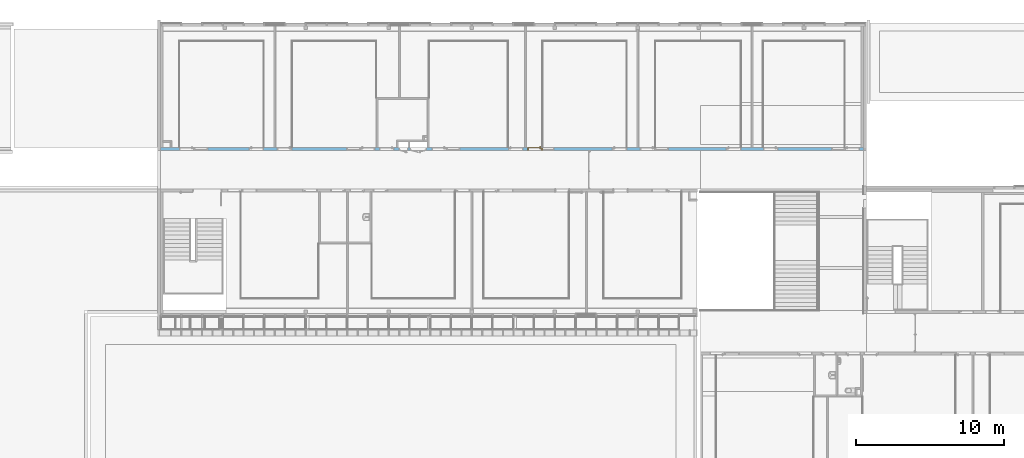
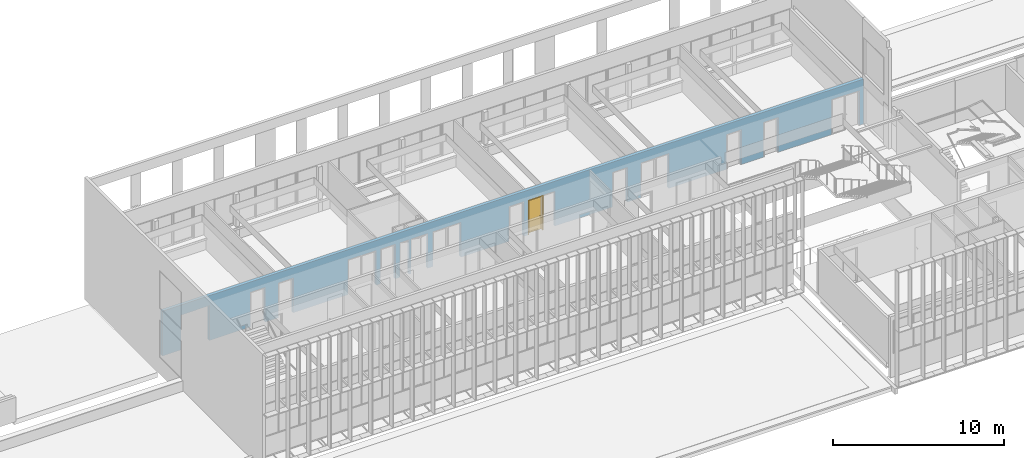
# One storey, part 55 of 106: 1 door, 21 openings, plus 1 element that does not belong to this part.
"""IFC2X3 building model written with IfcOpenShell, lengths in centimetres."""

from ifc_helpers import new_model, entity, si_unit, converted_unit, derived_unit, direction, frame, frame_2d, origin, place, context, subcontext, project, spatial, polyline, rectangle, extrude, clip, bounded_halfspace, faceted_brep, source, transform, mapped, material, material_list, layer, layer_set, layer_usage, type_object, type_shapes, element, fill, save


model = new_model("IFC2X3")

# Units and contexts
model_context = context("Model", 3, precision=0.001, world=origin(), true_north=direction((6.12303176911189e-17, 1.0)))
body_context = subcontext(model_context, "Body", "Model", "MODEL_VIEW")
ifc_project = project(units=[si_unit("LENGTHUNIT", "METRE", prefix="CENTI"), si_unit("AREAUNIT", "SQUARE_METRE"), si_unit("VOLUMEUNIT", "CUBIC_METRE"), converted_unit("PLANEANGLEUNIT", "DEGREE", entity("IfcRatioMeasure", 0.0174532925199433), si_unit("PLANEANGLEUNIT", "RADIAN"), dimensions=[0, 0, 0, 0, 0, 0, 0]), si_unit("MASSUNIT", "GRAM", prefix="KILO"), derived_unit("MASSDENSITYUNIT", [(si_unit("MASSUNIT", "GRAM", prefix="KILO"), 1), (si_unit("LENGTHUNIT", "METRE"), -3)]), si_unit("TIMEUNIT", "SECOND"), si_unit("FREQUENCYUNIT", "HERTZ"), si_unit("THERMODYNAMICTEMPERATUREUNIT", "DEGREE_CELSIUS"), derived_unit("THERMALTRANSMITTANCEUNIT", [(si_unit("MASSUNIT", "GRAM", prefix="KILO"), 1), (si_unit("THERMODYNAMICTEMPERATUREUNIT", "KELVIN"), -1), (si_unit("TIMEUNIT", "SECOND"), -3)]), derived_unit("VOLUMETRICFLOWRATEUNIT", [(si_unit("LENGTHUNIT", "METRE"), 3), (si_unit("TIMEUNIT", "SECOND"), -1)]), si_unit("ELECTRICCURRENTUNIT", "AMPERE"), si_unit("ELECTRICVOLTAGEUNIT", "VOLT"), si_unit("POWERUNIT", "WATT"), si_unit("FORCEUNIT", "NEWTON", prefix="KILO"), si_unit("ILLUMINANCEUNIT", "LUX"), si_unit("LUMINOUSFLUXUNIT", "LUMEN"), si_unit("LUMINOUSINTENSITYUNIT", "CANDELA"), derived_unit("USERDEFINED", [(si_unit("MASSUNIT", "GRAM", prefix="KILO"), -1), (si_unit("LENGTHUNIT", "METRE"), -2), (si_unit("TIMEUNIT", "SECOND"), 3), (si_unit("LUMINOUSFLUXUNIT", "LUMEN"), 1)]), derived_unit("LINEARVELOCITYUNIT", [(si_unit("LENGTHUNIT", "METRE"), 1), (si_unit("TIMEUNIT", "SECOND"), -1)]), si_unit("PRESSUREUNIT", "PASCAL"), derived_unit("USERDEFINED", [(si_unit("LENGTHUNIT", "METRE"), -2), (si_unit("MASSUNIT", "GRAM", prefix="KILO"), 1), (si_unit("TIMEUNIT", "SECOND"), -2)])], contexts=[model_context])

# Site, building, storey
site_placement = place(None, frame((-2781.94577612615, 7442.24238424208, 0.0)))
site = spatial("IfcSite", under=ifc_project, at=site_placement, Name="Default", CompositionType="ELEMENT")
building_placement = place(site_placement, origin())
building = spatial("IfcBuilding", under=site, at=building_placement, CompositionType="ELEMENT")
storey_placement = place(building_placement, frame((0.0, 0.0, 422.0)))
storey = spatial("IfcBuildingStorey", under=building, at=storey_placement, Name="Toiture - Cuisine", CompositionType="ELEMENT", Elevation=421.999999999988)

# Wall, openings, door
ifc_material_1 = material(Name="01 - Maçonnerie")
ifc_layer = layer(ifc_material_1, 20.0)
ifc_layer_set = layer_set([ifc_layer], Name="Mur de base:04 - Structure - béton - 20cm")
ifc_layer_usage = layer_usage(ifc_layer_set, "AXIS2", "NEGATIVE", 10.0)
wall_type = type_object("IfcWallType", Name="Mur de base:04 - Structure - béton - 20cm", PredefinedType="STANDARD", material=ifc_layer_set)
wall_placement = place(building_placement, frame((-8409.49987766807, -820.048500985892, 422.0)))
wall = element("IfcWallStandardCase", 1, at=wall_placement, inside=storey, type_object=wall_type, material=ifc_layer_usage, Name="Mur de base:04 - Structure - béton - 20cm", ObjectType="Mur de base:04 - Structure - béton - 20cm", context=body_context, shape_type="Clipping", body=[
    clip(extrude(rectangle(XDim=4741.49999798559, YDim=20.0, at=frame_2d((2370.74999899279, 2.04281036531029e-14), x_axis=(-1.0, 0.0))), origin(), (0.0, 0.0, 1.0), 321.0), bounded_halfspace(frame((4741.49999798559, -10.0, 321.0), z_axis=(0.0, 0.0, -1.0), x_axis=(0.0, 1.0, 0.0)), True, frame((4741.49999798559, -10.0, 321.0)), polyline([(0.0, 0.0), (0.0, 20.0), (-15.3000000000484, 20.0), (-125.300000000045, 20.0), (-127.300000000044, 20.0), (-675.800000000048, 20.0), (-677.800000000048, 20.0), (-745.800000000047, 20.0), (-755.800000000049, 20.0), (-825.800000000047, 20.0), (-827.800000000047, 20.0), (-1403.80000000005, 20.0), (-1405.80000000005, 20.0), (-1516.49999791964, 20.0), (-1526.49999791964, 20.0), (-1595.78709704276, 20.0), (-1597.78709704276, 20.0), (-2163.80000000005, 20.0), (-2165.80000000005, 20.0), (-2275.80000000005, 20.0), (-2285.80000000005, 20.0), (-2395.80000000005, 20.0), (-2397.80000000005, 20.0), (-2931.80000000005, 20.0), (-2941.80000000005, 20.0), (-3060.80000000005, 20.0), (-3070.80000000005, 20.0), (-3137.80000000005, 20.0), (-3147.80000000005, 20.0), (-3275.80000000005, 20.0), (-3285.80000000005, 20.0), (-3416.49999791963, 20.0), (-3535.80000000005, 20.0), (-3545.80000000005, 20.0), (-3611.80000000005, 20.0), (-3853.80000000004, 20.0), (-3855.80000000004, 20.0), (-3965.80000000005, 20.0), (-3975.80000000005, 20.0), (-4044.30000000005, 20.0), (-4046.30000000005, 20.0), (-4614.19999798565, 20.0), (-4616.19999798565, 20.0), (-4666.19999798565, 20.0), (-4676.19999798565, 20.0), (-4726.19999798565, 20.0), (-4741.49999798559, 20.0), (-4741.49999798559, 0.0), (-1854.0, 0.0), (-1844.0, 0.0), (-1840.0, 0.0), (0.0, 0.0)]))),
])
opening_1_placement = place(wall_placement, frame((1669.50000006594, 10.0, 0.0)))
element("IfcOpeningElement", 2, at=opening_1_placement, cuts=wall, Name="Int. Simple:PP Placard (0.55m x 2.50m):1", ObjectType="Opening", context=body_context, shape_type="SweptSolid", body=[
    extrude(rectangle(XDim=248.500000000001, YDim=61.9999999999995, at=frame_2d((124.250000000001, 30.9999999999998), x_axis=(1.0, 0.0))), frame((0.0, 0.0, 0.0), z_axis=(0.0, -1.0, 0.0), x_axis=(0.0, 0.0, 1.0)), (0.0, 0.0, 1.0), 20.0),
])
opening_2_placement = place(wall_placement, frame((1794.50000006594, 10.0, 0.0)))
element("IfcOpeningElement", 3, at=opening_2_placement, cuts=wall, Name="Int. Double:PP Placard (1.05m x 2.50m):1", ObjectType="Opening", context=body_context, shape_type="SweptSolid", body=[
    extrude(rectangle(XDim=248.500000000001, YDim=112.0, at=frame_2d((124.250000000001, 56.0000000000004), x_axis=(1.0, 0.0))), frame((0.0, 0.0, 0.0), z_axis=(0.0, -1.0, 0.0), x_axis=(0.0, 0.0, 1.0)), (0.0, 0.0, 1.0), 20.0),
])
opening_3_placement = place(wall_placement, frame((126.799999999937, -10.0, 0.0)))
element("IfcOpeningElement", 4, at=opening_3_placement, cuts=wall, Name="Int. Simple:PV (0.93m x 2.50m):1", ObjectType="Opening", context=body_context, shape_type="SweptSolid", body=[
    extrude(rectangle(XDim=248.500000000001, YDim=99.9999999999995, at=frame_2d((124.250000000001, 50.0), x_axis=(1.0, 0.0))), frame((0.0, 0.0, 0.0), z_axis=(0.0, 1.0, 0.0), x_axis=(0.0, 0.0, 1.0)), (0.0, 0.0, 1.0), 20.0),
])
opening_4_placement = place(wall_placement, frame((595.699997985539, -10.0, 0.0)))
element("IfcOpeningElement", 5, at=opening_4_placement, cuts=wall, Name="Int. Simple:PV (0.93m x 2.50m):1", ObjectType="Opening", context=body_context, shape_type="SweptSolid", body=[
    extrude(rectangle(XDim=248.500000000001, YDim=99.9999999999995, at=frame_2d((124.250000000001, 49.9999999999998), x_axis=(1.0, 0.0))), frame((0.0, 0.0, 0.0), z_axis=(0.0, 1.0, 0.0), x_axis=(0.0, 0.0, 1.0)), (0.0, 0.0, 1.0), 20.0),
])
opening_5_placement = place(wall_placement, frame((785.699997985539, -10.0, 0.0)))
element("IfcOpeningElement", 6, at=opening_5_placement, cuts=wall, Name="Int. Simple:PV (0.93m x 2.50m):1", ObjectType="Opening", context=body_context, shape_type="SweptSolid", body=[
    extrude(rectangle(XDim=248.500000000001, YDim=99.9999999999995, at=frame_2d((124.250000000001, 50.0), x_axis=(1.0, 0.0))), frame((0.0, 0.0, 0.0), z_axis=(0.0, 1.0, 0.0), x_axis=(0.0, 0.0, 1.0)), (0.0, 0.0, 1.0), 20.0),
])
opening_6_placement = place(wall_placement, frame((1345.69999798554, -10.0, 0.0)))
element("IfcOpeningElement", 7, at=opening_6_placement, cuts=wall, Name="Int. Simple:PV (0.93m x 2.50m):1", ObjectType="Opening", context=body_context, shape_type="SweptSolid", body=[
    extrude(rectangle(XDim=248.500000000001, YDim=99.9999999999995, at=frame_2d((124.250000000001, 49.9999999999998), x_axis=(1.0, 0.0))), frame((0.0, 0.0, 0.0), z_axis=(0.0, 1.0, 0.0), x_axis=(0.0, 0.0, 1.0)), (0.0, 0.0, 1.0), 20.0),
])
opening_7_placement = place(wall_placement, frame((1475.69999798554, -10.0, 0.0)))
element("IfcOpeningElement", 8, at=opening_7_placement, cuts=wall, Name="Int. Simple:PP simple (0.93m x 2.50m):1", ObjectType="Opening", context=body_context, shape_type="SweptSolid", body=[
    extrude(rectangle(XDim=248.500000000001, YDim=99.9999999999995, at=frame_2d((124.250000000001, 50.0), x_axis=(1.0, 0.0))), frame((0.0, 0.0, 0.0), z_axis=(0.0, 1.0, 0.0), x_axis=(0.0, 0.0, 1.0)), (0.0, 0.0, 1.0), 20.0),
])
opening_8_placement = place(wall_placement, frame((1829.69999798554, -10.0, 0.0)))
element("IfcOpeningElement", 9, at=opening_8_placement, cuts=wall, Name="Int. Simple:PV (0.93m x 2.50m):1", ObjectType="Opening", context=body_context, shape_type="SweptSolid", body=[
    extrude(rectangle(XDim=248.500000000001, YDim=99.9999999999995, at=frame_2d((124.250000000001, 50.0), x_axis=(1.0, 0.0))), frame((0.0, 0.0, 0.0), z_axis=(0.0, 1.0, 0.0), x_axis=(0.0, 0.0, 1.0)), (0.0, 0.0, 1.0), 20.0),
])
opening_9_placement = place(wall_placement, frame((2345.69999798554, -10.0, 0.0)))
element("IfcOpeningElement", 10, at=opening_9_placement, cuts=wall, Name="Int. Simple:PV (0.93m x 2.50m):1", ObjectType="Opening", context=body_context, shape_type="SweptSolid", body=[
    extrude(rectangle(XDim=248.500000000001, YDim=99.9999999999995, at=frame_2d((124.250000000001, 49.9999999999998), x_axis=(1.0, 0.0))), frame((0.0, 0.0, 0.0), z_axis=(0.0, 1.0, 0.0), x_axis=(0.0, 0.0, 1.0)), (0.0, 0.0, 1.0), 20.0),
])
opening_10_placement = place(wall_placement, frame((2475.69999798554, -10.0, 0.0)))
opening_10 = element("IfcOpeningElement", 11, at=opening_10_placement, cuts=wall, Name="Int. Simple:PV (0.93m x 2.50m):1", ObjectType="Opening", context=body_context, shape_type="SweptSolid", body=[
    extrude(rectangle(XDim=248.500000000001, YDim=99.9999999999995, at=frame_2d((124.250000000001, 50.0), x_axis=(1.0, 0.0))), frame((0.0, 0.0, 0.0), z_axis=(0.0, 1.0, 0.0), x_axis=(0.0, 0.0, 1.0)), (0.0, 0.0, 1.0), 20.0),
])
opening_11_placement = place(wall_placement, frame((3045.69999798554, -10.0, 0.0)))
element("IfcOpeningElement", 12, at=opening_11_placement, cuts=wall, Name="Int. Simple:PV (0.93m x 2.50m):1", ObjectType="Opening", context=body_context, shape_type="SweptSolid", body=[
    extrude(rectangle(XDim=248.500000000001, YDim=99.9999999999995, at=frame_2d((124.250000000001, 49.9999999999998), x_axis=(1.0, 0.0))), frame((0.0, 0.0, 0.0), z_axis=(0.0, 1.0, 0.0), x_axis=(0.0, 0.0, 1.0)), (0.0, 0.0, 1.0), 20.0),
])
opening_12_placement = place(wall_placement, frame((3235.69999798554, -10.0, 0.0)))
element("IfcOpeningElement", 13, at=opening_12_placement, cuts=wall, Name="Int. Simple:PV (0.93m x 2.50m):1", ObjectType="Opening", context=body_context, shape_type="SweptSolid", body=[
    extrude(rectangle(XDim=248.500000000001, YDim=99.9999999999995, at=frame_2d((124.250000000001, 50.0), x_axis=(1.0, 0.0))), frame((0.0, 0.0, 0.0), z_axis=(0.0, 1.0, 0.0), x_axis=(0.0, 0.0, 1.0)), (0.0, 0.0, 1.0), 20.0),
])
opening_13_placement = place(wall_placement, frame((3815.69999798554, -10.0, 0.0)))
element("IfcOpeningElement", 14, at=opening_13_placement, cuts=wall, Name="Int. Simple:PV (0.93m x 2.50m):1", ObjectType="Opening", context=body_context, shape_type="SweptSolid", body=[
    extrude(rectangle(XDim=248.500000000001, YDim=99.9999999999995, at=frame_2d((124.250000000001, 49.9999999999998), x_axis=(1.0, 0.0))), frame((0.0, 0.0, 0.0), z_axis=(0.0, 1.0, 0.0), x_axis=(0.0, 0.0, 1.0)), (0.0, 0.0, 1.0), 20.0),
])
opening_14_placement = place(wall_placement, frame((4065.69999798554, -10.0, 0.0)))
element("IfcOpeningElement", 15, at=opening_14_placement, cuts=wall, Name="Int. Simple:PV (0.93m x 2.50m):1", ObjectType="Opening", context=body_context, shape_type="SweptSolid", body=[
    extrude(rectangle(XDim=248.500000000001, YDim=99.9999999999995, at=frame_2d((124.250000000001, 50.0), x_axis=(1.0, 0.0))), frame((0.0, 0.0, 0.0), z_axis=(0.0, 1.0, 0.0), x_axis=(0.0, 0.0, 1.0)), (0.0, 0.0, 1.0), 20.0),
])
opening_15_placement = place(wall_placement, frame((4616.19999798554, -10.0, 0.0)))
element("IfcOpeningElement", 16, at=opening_15_placement, cuts=wall, Name="Int. Simple:PV (0.93m x 2.50m):1", ObjectType="Opening", context=body_context, shape_type="SweptSolid", body=[
    extrude(rectangle(XDim=248.500000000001, YDim=99.9999999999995, at=frame_2d((124.250000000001, 49.9999999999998), x_axis=(1.0, 0.0))), frame((0.0, 0.0, 0.0), z_axis=(0.0, 1.0, 0.0), x_axis=(0.0, 0.0, 1.0)), (0.0, 0.0, 1.0), 20.0),
])
opening_16_placement = place(wall_placement, frame((1255.69999798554, -10.0, 0.0)))
element("IfcOpeningElement", 17, at=opening_16_placement, cuts=wall, Name="châssis intérieur vitré:châssis intérieur vitré (h=270) R+1:1", ObjectType="Opening", context=body_context, shape_type="SweptSolid", body=[
    extrude(rectangle(XDim=250.0, YDim=89.9999999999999, at=frame_2d((125.0, 45.0), x_axis=(1.0, 0.0))), frame((0.0, 0.0, 0.0), z_axis=(0.0, 1.0, 0.0), x_axis=(0.0, 0.0, 1.0)), (0.0, 0.0, 1.0), 20.0),
])
opening_17_placement = place(wall_placement, frame((1929.69999798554, -10.0, 0.0)))
element("IfcOpeningElement", 18, at=opening_17_placement, cuts=wall, Name="châssis intérieur vitré:châssis intérieur vitré (h=270) R+1:1", ObjectType="Opening", context=body_context, shape_type="SweptSolid", body=[
    extrude(rectangle(XDim=250.0, YDim=89.9999999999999, at=frame_2d((125.0, 45.0), x_axis=(1.0, 0.0))), frame((0.0, 0.0, 0.0), z_axis=(0.0, 1.0, 0.0), x_axis=(0.0, 0.0, 1.0)), (0.0, 0.0, 1.0), 20.0),
])
opening_18_placement = place(wall_placement, frame((4526.19999798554, -10.0, 0.0)))
element("IfcOpeningElement", 19, at=opening_18_placement, cuts=wall, Name="châssis intérieur vitré:châssis intérieur vitré (h=270) R+1:1", ObjectType="Opening", context=body_context, shape_type="SweptSolid", body=[
    extrude(rectangle(XDim=250.0, YDim=89.9999999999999, at=frame_2d((125.0, 45.0000000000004), x_axis=(1.0, 0.0))), frame((0.0, 0.0, 0.0), z_axis=(0.0, 1.0, 0.0), x_axis=(0.0, 0.0, 1.0)), (0.0, 0.0, 1.0), 20.0),
])
opening_19_placement = place(wall_placement, frame((3335.69999798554, -10.0, 0.0)))
element("IfcOpeningElement", 20, at=opening_19_placement, cuts=wall, Name="châssis intérieur vitré:châssis intérieur vitré (h=270) R+1:1", ObjectType="Opening", context=body_context, shape_type="SweptSolid", body=[
    extrude(rectangle(XDim=250.0, YDim=89.9999999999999, at=frame_2d((125.0, 45.0000000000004), x_axis=(1.0, 0.0))), frame((0.0, 0.0, 0.0), z_axis=(0.0, 1.0, 0.0), x_axis=(0.0, 0.0, 1.0)), (0.0, 0.0, 1.0), 20.0),
])
opening_20_placement = place(wall_placement, frame((2565.69999798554, -10.0, 0.0)))
element("IfcOpeningElement", 21, at=opening_20_placement, cuts=wall, Name="châssis intérieur vitré:châssis intérieur vitré (h=270) R+1:1", ObjectType="Opening", context=body_context, shape_type="SweptSolid", body=[
    extrude(rectangle(XDim=250.0, YDim=89.9999999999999, at=frame_2d((125.0, 45.0000000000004), x_axis=(1.0, 0.0))), frame((0.0, 0.0, 0.0), z_axis=(0.0, 1.0, 0.0), x_axis=(0.0, 0.0, 1.0)), (0.0, 0.0, 1.0), 20.0),
])
opening_21_placement = place(wall_placement, frame((226.799999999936, -10.0, 0.0)))
element("IfcOpeningElement", 22, at=opening_21_placement, cuts=wall, Name="châssis intérieur vitré:châssis intérieur vitré (h=270) R+1:1", ObjectType="Opening", context=body_context, shape_type="SweptSolid", body=[
    extrude(rectangle(XDim=250.0, YDim=91.4999999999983, at=frame_2d((125.0, 45.7499999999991), x_axis=(1.0, 0.0))), frame((0.0, 0.0, 0.0), z_axis=(0.0, 1.0, 0.0), x_axis=(0.0, 0.0, 1.0)), (0.0, 0.0, 1.0), 20.0),
])
ifc_material_2 = material(Name="Finition Peinture - Blanc satiné")
ifc_material_3 = material(Name="Bois - Panneau de porte")
ifc_material_4 = material(Name="Bois - Cadre de porte")
ifc_material_list_1 = material_list([ifc_material_2, ifc_material_3, ifc_material_4])
ifc_material_list_2 = material_list([ifc_material_2, ifc_material_3, ifc_material_4])
door_style = type_object("IfcDoorStyle", Name="PV (0.93m x 2.50m)", ConstructionType="NOTDEFINED", OperationType="SINGLE_SWING_LEFT", ParameterTakesPrecedence=False, Sizeable=False, material=ifc_material_list_2)
shared_shape = source(origin(), body_context, "Body", "Brep", [
    faceted_brep([(10.5352761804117, -0.500000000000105, 86.6003983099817), (11.5000000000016, -0.500000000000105, 87.0), (11.5000000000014, -0.500000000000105, 108.0), (10.5352761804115, -0.500000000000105, 108.399601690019), (9.50000000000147, -0.500000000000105, 108.535898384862), (8.46472381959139, -0.500000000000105, 108.399601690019), (7.50000000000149, -0.500000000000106, 108.0), (7.50000000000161, -0.500000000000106, 87.0), (8.46472381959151, -0.500000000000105, 86.6003983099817), (9.50000000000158, -0.500000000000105, 86.464101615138), (10.5352761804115, 0.0, 108.399601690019), (11.5000000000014, 0.0, 108.0), (11.5000000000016, 0.0, 87.0), (10.5352761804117, 0.0, 86.6003983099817), (9.50000000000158, 0.0, 86.464101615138), (8.46472381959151, 0.0, 86.6003983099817), (7.50000000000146, 0.0, 87.0), (7.50000000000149, 0.0, 108.0), (8.46472381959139, 0.0, 108.399601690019), (9.50000000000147, 0.0, 108.535898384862)], [[[0, 1, 2, 3, 4, 5, 6, 7, 8, 9]], [[10, 11, 12, 13, 14, 15, 16, 17, 18, 19]], [[16, 15, 8, 7]], [[8, 15, 14, 9]], [[14, 13, 0, 9]], [[13, 12, 1, 0]], [[2, 1, 12, 11]], [[11, 10, 3, 2]], [[3, 10, 19, 4]], [[19, 18, 5, 4]], [[18, 17, 6, 5]], [[7, 6, 17, 16]]]),
    faceted_brep([(10.5352761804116, 4.0, 86.6003983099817), (11.5000000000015, 4.0, 87.0), (11.5000000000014, 4.0, 108.0), (10.5352761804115, 4.0, 108.399601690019), (9.50000000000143, 4.0, 108.535898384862), (8.46472381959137, 4.0, 108.399601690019), (7.50000000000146, 4.0, 108.0), (7.50000000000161, 4.0, 87.0), (8.46472381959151, 4.0, 86.6003983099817), (9.50000000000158, 4.0, 86.464101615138), (10.5352761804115, 4.49999999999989, 108.399601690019), (11.5000000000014, 4.49999999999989, 108.0), (11.5000000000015, 4.49999999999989, 87.0), (10.5352761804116, 4.49999999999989, 86.6003983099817), (9.50000000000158, 4.49999999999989, 86.464101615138), (8.46472381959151, 4.49999999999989, 86.6003983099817), (7.50000000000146, 4.49999999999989, 87.0), (7.50000000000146, 4.49999999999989, 108.0), (8.46472381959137, 4.49999999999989, 108.399601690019), (9.50000000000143, 4.49999999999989, 108.535898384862)], [[[0, 1, 2, 3, 4, 5, 6, 7, 8, 9]], [[10, 11, 12, 13, 14, 15, 16, 17, 18, 19]], [[11, 10, 3, 2]], [[3, 10, 19, 4]], [[19, 18, 5, 4]], [[18, 17, 6, 5]], [[7, 6, 17, 16]], [[16, 15, 8, 7]], [[8, 15, 14, 9]], [[14, 13, 0, 9]], [[13, 12, 1, 0]], [[2, 1, 12, 11]]]),
    faceted_brep([(9.29747013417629, -0.500000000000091, 100.778044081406), (9.70252986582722, -0.500000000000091, 100.778044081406), (10.1000000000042, -0.500000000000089, 100.699999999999), (10.1000000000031, -0.500000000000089, 99.3000000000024), (9.7025298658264, -0.500000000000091, 99.2219559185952), (9.29747013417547, -0.500000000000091, 99.221955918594), (8.8999999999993, -0.500000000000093, 99.2999999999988), (8.89999999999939, -0.500000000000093, 100.7), (8.89999999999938, -3.26509507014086, 100.7), (9.29747013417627, -3.10045754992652, 100.778044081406), (10.9023585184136, -4.70534593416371, 100.778044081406), (11.0701397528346, -4.30028620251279, 100.778044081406), (9.7025298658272, -2.93267631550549, 100.778044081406), (10.1000000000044, -2.76803879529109, 100.7), (10.1000000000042, -2.76803879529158, 99.3000000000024), (9.7025298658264, -2.93267631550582, 99.2219559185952), (11.0701397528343, -4.30028620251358, 99.2219559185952), (10.9023585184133, -4.70534593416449, 99.221955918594), (9.29747013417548, -3.10045754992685, 99.221955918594), (8.89999999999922, -3.26509507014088, 99.2999999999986), (10.7377209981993, -5.10281606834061, 100.7), (11.2347772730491, -3.90281606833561, 100.7), (11.2347772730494, -3.90281606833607, 99.3000000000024), (10.7377209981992, -5.10281606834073, 99.2999999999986), (19.5018640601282, -5.1028160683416, 99.2999999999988), (19.5018640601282, -4.70534593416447, 99.221955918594), (19.5018640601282, -4.30028620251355, 99.2219559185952), (19.5018640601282, -3.90281606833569, 99.3000000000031), (19.5018640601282, -3.90281606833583, 100.7), (19.5018640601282, -4.30028620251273, 100.778044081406), (19.5018640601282, -4.70534593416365, 100.778044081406), (19.5018640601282, -5.10281606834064, 100.699999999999), (14.7307697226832, -5.10281606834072, 100.7), (15.2860019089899, -4.5028160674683, 100.78786867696), (15.3683206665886, -3.9028160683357, 100.7), (15.3683206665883, -3.90281606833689, 99.3000000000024), (15.2860018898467, -4.50281607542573, 99.2121313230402), (14.7307700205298, -5.10281606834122, 99.2999999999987)], [[[0, 1, 2, 3, 4, 5, 6, 7]], [[8, 9, 0, 7]], [[9, 10, 11, 12, 1, 0]], [[12, 13, 2, 1]], [[3, 2, 13, 14]], [[14, 15, 4, 3]], [[15, 16, 17, 18, 5, 4]], [[18, 19, 6, 5]], [[7, 6, 19, 8]], [[20, 10, 9, 8]], [[11, 21, 13, 12]], [[14, 13, 21, 22]], [[22, 16, 15, 14]], [[17, 23, 19, 18]], [[8, 19, 23, 20]], [[24, 25, 26, 27, 28, 29, 30, 31]], [[32, 30, 33]], [[31, 30, 32]], [[10, 20, 32]], [[33, 34, 11]], [[21, 11, 34]], [[34, 29, 28]], [[30, 29, 33]], [[29, 34, 33]], [[10, 32, 33]], [[10, 33, 11]], [[22, 21, 34, 28, 27, 35]], [[35, 26, 36]], [[37, 36, 25]], [[22, 35, 16]], [[35, 27, 26]], [[24, 37, 25]], [[23, 17, 37]], [[37, 17, 36]], [[17, 16, 36]], [[16, 35, 36]], [[25, 36, 26]], [[20, 23, 37, 24, 31, 32]]]),
    faceted_brep([(9.29747013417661, 4.49999999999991, 100.778044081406), (8.89999999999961, 4.4999999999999, 100.7), (8.89999999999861, 4.4999999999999, 99.2999999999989), (9.29747013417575, 4.49999999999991, 99.221955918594), (9.70252986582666, 4.49999999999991, 99.2219559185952), (10.1000000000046, 4.49999999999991, 99.3000000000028), (10.1000000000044, 4.49999999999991, 100.7), (9.70252986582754, 4.49999999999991, 100.778044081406), (10.1000000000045, 6.7485204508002, 99.3000000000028), (10.1000000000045, 6.74852045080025, 100.7), (9.70252986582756, 6.91315797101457, 100.778044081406), (11.083890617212, 8.29451872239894, 100.778044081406), (10.916109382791, 8.69957845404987, 100.778044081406), (9.29747013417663, 7.0809392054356, 100.778044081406), (8.89999999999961, 7.24557672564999, 100.7), (8.89999999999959, 7.2455767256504, 99.2999999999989), (9.29747013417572, 7.08093920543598, 99.221955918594), (10.9161093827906, 8.69957845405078, 99.221955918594), (11.0838906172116, 8.29451872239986, 99.2219559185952), (9.70252986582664, 6.91315797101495, 99.2219559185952), (11.2485281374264, 7.89704858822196, 99.3000000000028), (11.2485281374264, 7.89704858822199, 100.7), (10.7514718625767, 9.09704858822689, 100.7), (10.7514718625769, 9.0970485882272, 99.2999999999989), (19.5045783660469, 7.89704858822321, 99.3000000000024), (19.5045783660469, 8.29451872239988, 99.2219559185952), (19.5045783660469, 8.6995784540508, 99.221955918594), (19.5045783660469, 9.09704858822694, 99.2999999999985), (19.5045783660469, 9.09704858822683, 100.7), (19.5045783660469, 8.69957845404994, 100.778044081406), (19.5045783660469, 8.29451872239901, 100.778044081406), (19.5045783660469, 7.89704858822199, 100.7), (15.3765520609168, 7.89704858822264, 99.3000000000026), (15.3765532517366, 7.89704858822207, 100.7), (15.294234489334, 8.49704858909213, 100.78786867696), (14.7445205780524, 9.09704858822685, 100.7), (14.7445204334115, 9.09704858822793, 99.2999999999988), (15.2942345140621, 8.49704858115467, 99.2121313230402)], [[[0, 1, 2, 3, 4, 5, 6, 7]], [[6, 5, 8, 9]], [[9, 10, 7, 6]], [[10, 11, 12, 13, 0, 7]], [[13, 14, 1, 0]], [[2, 1, 14, 15]], [[15, 16, 3, 2]], [[16, 17, 18, 19, 4, 3]], [[19, 8, 5, 4]], [[9, 8, 20, 21]], [[21, 11, 10, 9]], [[12, 22, 14, 13]], [[15, 14, 22, 23]], [[23, 17, 16, 15]], [[18, 20, 8, 19]], [[24, 25, 26, 27, 28, 29, 30, 31]], [[21, 20, 32, 24, 31, 33]], [[33, 30, 34]], [[35, 34, 29]], [[21, 33, 11]], [[33, 31, 30]], [[28, 35, 29]], [[22, 12, 35]], [[35, 12, 34]], [[12, 11, 34]], [[11, 33, 34]], [[29, 34, 30]], [[22, 35, 28, 27, 36, 23]], [[36, 26, 37]], [[27, 26, 36]], [[17, 23, 36]], [[37, 32, 18]], [[20, 18, 32]], [[32, 25, 24]], [[26, 25, 37]], [[25, 32, 37]], [[17, 36, 37]], [[17, 37, 18]]]),
    faceted_brep([(3.50000000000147, 4.0, 245.0), (96.5000000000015, 4.0, 245.0), (96.5000000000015, 4.0, 0.0), (3.50000000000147, 4.0, 0.0), (3.50000000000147, 0.0, 245.0), (3.50000000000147, 0.0, 0.0), (96.5000000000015, 0.0, 0.0), (96.5000000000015, 0.0, 245.0)], [[[0, 1, 2, 3]], [[4, 5, 6, 7]], [[1, 0, 4, 7]], [[2, 1, 7, 6]], [[3, 2, 6, 5]], [[0, 3, 5, 4]]]),
    faceted_brep([(0.0, 20.0, 0.0), (-1.50000000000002, 20.0, 0.0), (-1.50000000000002, 20.5000000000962, 0.0), (5.0, 20.5000000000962, 0.0), (5.0, 4.0, 0.0), (3.50000000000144, 4.0, 0.0), (3.50000000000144, -0.500000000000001, 0.0), (-1.50000000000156, -0.500000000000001, 0.0), (-1.50000000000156, 0.0, 0.0), (0.0, 0.0, 0.0), (0.0, 20.0, 248.500000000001), (100.0, 20.0, 248.500000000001), (100.0, 20.0, 0.0), (101.5, 20.0, 0.0), (101.5, 20.0, 250.0), (-1.50000000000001, 20.0, 250.0), (-1.50000000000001, 20.5000000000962, 250.0), (101.5, 20.5000000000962, 250.0), (101.5, 20.5000000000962, 0.0), (95.0, 20.5000000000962, 0.0), (95.0, 20.5000000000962, 243.5), (5.0, 20.5000000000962, 243.5), (5.0, 4.0, 243.5), (95.0, 4.0, 243.5), (95.0, 4.0, 0.0), (96.499999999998, 4.0, 0.0), (96.499999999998, 4.0, 245.0), (3.50000000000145, 4.0, 245.0), (3.50000000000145, -0.500000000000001, 245.0), (96.499999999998, -0.500000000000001, 245.0), (96.499999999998, -0.500000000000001, 0.0), (101.500000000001, -0.500000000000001, 0.0), (101.500000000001, -0.500000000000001, 250.0), (-1.50000000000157, -0.500000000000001, 250.0), (-1.50000000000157, 0.0, 250.0), (101.500000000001, 0.0, 250.0), (101.500000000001, 0.0, 0.0), (100.0, 0.0, 0.0), (100.0, 0.0, 248.500000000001), (0.0, 0.0, 248.500000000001)], [[[0, 1, 2, 3, 4, 5, 6, 7, 8, 9]], [[1, 0, 10, 11, 12, 13, 14, 15]], [[2, 1, 15, 16]], [[3, 2, 16, 17, 18, 19, 20, 21]], [[3, 21, 22, 4]], [[5, 4, 22, 23, 24, 25, 26, 27]], [[5, 27, 28, 6]], [[7, 6, 28, 29, 30, 31, 32, 33]], [[8, 7, 33, 34]], [[9, 8, 34, 35, 36, 37, 38, 39]], [[0, 9, 39, 10]], [[11, 38, 37, 12]], [[12, 37, 36, 31, 30, 25, 24, 19, 18, 13]], [[17, 14, 13, 18]], [[23, 20, 19, 24]], [[29, 26, 25, 30]], [[35, 32, 31, 36]], [[16, 15, 14, 17]], [[22, 21, 20, 23]], [[28, 27, 26, 29]], [[34, 33, 32, 35]], [[10, 39, 38, 11]]]),
])
type_shapes(door_style, [shared_shape])
door_placement = place(opening_10_placement, frame((100.0, 20.0, 0.0), z_axis=(0.0, 0.0, 1.0), x_axis=(-1.0, 0.0, 0.0)))
door = element("IfcDoor", 23, at=door_placement, inside=storey, type_object=door_style, material=ifc_material_list_1, Name="Int. Simple:PV (0.93m x 2.50m)", ObjectType="Int. Simple:PV (0.93m x 2.50m)", OverallHeight=248.500000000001, OverallWidth=99.9999999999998, context=body_context, shape_type="MappedRepresentation", body=[
    mapped(shared_shape, transform((0.0, 0.0, 0.0), scale=1.0)),
])
fill(opening_10, door)

save(model, "model.ifc")
